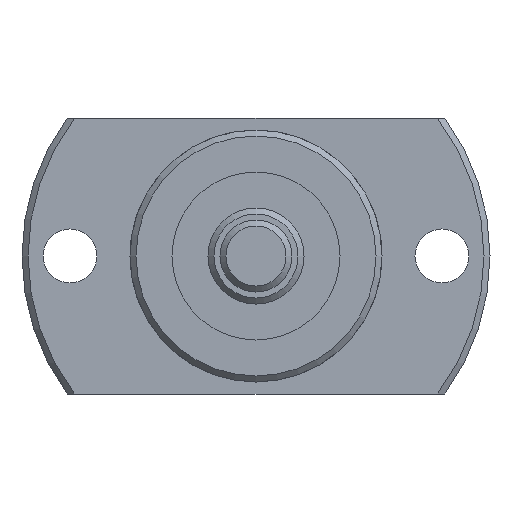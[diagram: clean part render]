
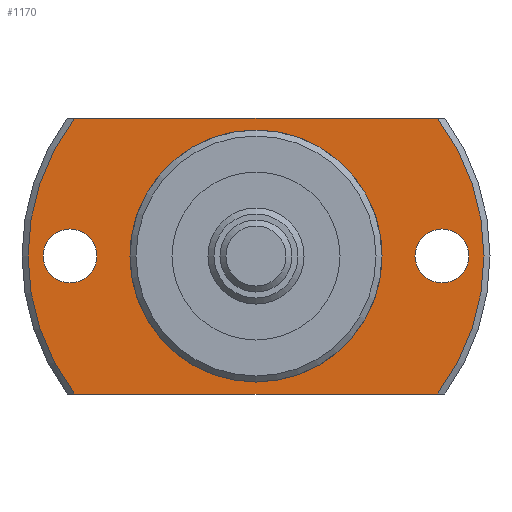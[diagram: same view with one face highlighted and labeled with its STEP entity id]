
A CAD part, left-side view. The second image highlights one B-rep face of the part: STEP entity #1170.
In plain terms, the highlighted planar face has unit normal (-1, 0, 0).
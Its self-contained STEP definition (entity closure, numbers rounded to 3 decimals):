
#121=CIRCLE('',#1303,10.25);
#124=CIRCLE('',#1307,19.);
#130=CIRCLE('',#1318,2.25);
#131=CIRCLE('',#1319,2.25);
#132=CIRCLE('',#1320,19.);
#274=ORIENTED_EDGE('',*,*,#541,.T.);
#275=ORIENTED_EDGE('',*,*,#542,.T.);
#276=ORIENTED_EDGE('',*,*,#530,.F.);
#277=ORIENTED_EDGE('',*,*,#543,.T.);
#278=ORIENTED_EDGE('',*,*,#544,.F.);
#279=ORIENTED_EDGE('',*,*,#545,.T.);
#280=ORIENTED_EDGE('',*,*,#524,.T.);
#524=EDGE_CURVE('',#670,#670,#121,.T.);
#530=EDGE_CURVE('',#675,#676,#124,.T.);
#541=EDGE_CURVE('',#685,#685,#130,.T.);
#542=EDGE_CURVE('',#686,#686,#131,.T.);
#543=EDGE_CURVE('',#675,#687,#760,.T.);
#544=EDGE_CURVE('',#688,#687,#132,.T.);
#545=EDGE_CURVE('',#688,#676,#761,.T.);
#670=VERTEX_POINT('',#1916);
#675=VERTEX_POINT('',#1930);
#676=VERTEX_POINT('',#1932);
#685=VERTEX_POINT('',#1966);
#686=VERTEX_POINT('',#1968);
#687=VERTEX_POINT('',#1970);
#688=VERTEX_POINT('',#1972);
#760=LINE('',#1969,#820);
#761=LINE('',#1973,#821);
#820=VECTOR('',#1583,1000.);
#821=VECTOR('',#1586,1000.);
#914=EDGE_LOOP('',(#274));
#915=EDGE_LOOP('',(#275));
#916=EDGE_LOOP('',(#276,#277,#278,#279));
#917=EDGE_LOOP('',(#280));
#1034=FACE_BOUND('',#914,.T.);
#1035=FACE_BOUND('',#915,.T.);
#1036=FACE_BOUND('',#916,.T.);
#1037=FACE_BOUND('',#917,.T.);
#1111=PLANE('',#1317);
#1170=ADVANCED_FACE('',(#1034,#1035,#1036,#1037),#1111,.F.);
#1303=AXIS2_PLACEMENT_3D('',#1915,#1545,#1546);
#1307=AXIS2_PLACEMENT_3D('',#1931,#1555,#1556);
#1317=AXIS2_PLACEMENT_3D('',#1964,#1577,#1578);
#1318=AXIS2_PLACEMENT_3D('',#1965,#1579,#1580);
#1319=AXIS2_PLACEMENT_3D('',#1967,#1581,#1582);
#1320=AXIS2_PLACEMENT_3D('',#1971,#1584,#1585);
#1545=DIRECTION('',(1.,0.,0.));
#1546=DIRECTION('',(0.,0.,-1.));
#1555=DIRECTION('',(1.,0.,0.));
#1556=DIRECTION('',(0.,0.,-1.));
#1577=DIRECTION('',(1.,0.,0.));
#1578=DIRECTION('',(0.,0.,-1.));
#1579=DIRECTION('',(1.,0.,0.));
#1580=DIRECTION('',(0.,0.,-1.));
#1581=DIRECTION('',(1.,0.,0.));
#1582=DIRECTION('',(0.,0.,-1.));
#1583=DIRECTION('',(0.,-1.,0.));
#1584=DIRECTION('',(1.,0.,0.));
#1585=DIRECTION('',(0.,0.,-1.));
#1586=DIRECTION('',(0.,1.,0.));
#1915=CARTESIAN_POINT('',(23.,0.,0.));
#1916=CARTESIAN_POINT('',(23.,0.,-10.25));
#1930=CARTESIAN_POINT('',(23.,15.124,-11.5));
#1931=CARTESIAN_POINT('',(23.,0.,0.));
#1932=CARTESIAN_POINT('',(23.,15.124,11.5));
#1964=CARTESIAN_POINT('',(23.,10.25,0.));
#1965=CARTESIAN_POINT('',(23.,-15.5,0.));
#1966=CARTESIAN_POINT('',(23.,-15.5,-2.25));
#1967=CARTESIAN_POINT('',(23.,15.5,0.));
#1968=CARTESIAN_POINT('',(23.,15.5,-2.25));
#1969=CARTESIAN_POINT('',(23.,10.25,-11.5));
#1970=CARTESIAN_POINT('',(23.,-15.124,-11.5));
#1971=CARTESIAN_POINT('',(23.,0.,0.));
#1972=CARTESIAN_POINT('',(23.,-15.124,11.5));
#1973=CARTESIAN_POINT('',(23.,10.25,11.5));
